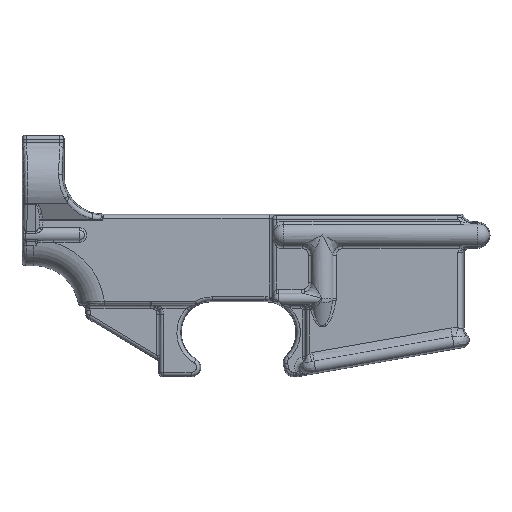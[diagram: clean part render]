
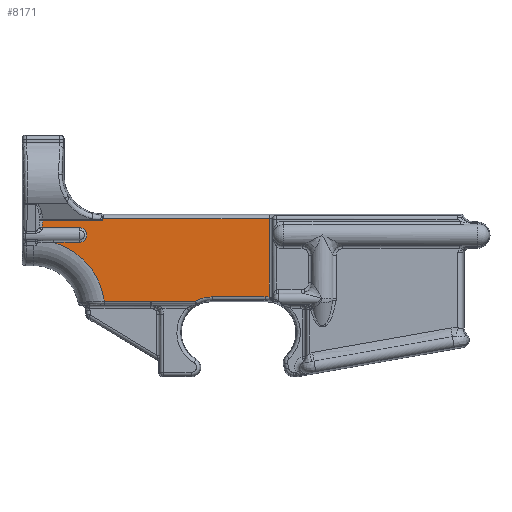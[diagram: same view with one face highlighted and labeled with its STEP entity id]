
A CAD part, top view. The second image highlights one B-rep face of the part: STEP entity #8171.
In plain terms, the highlighted planar face has unit normal (0, 0, 1).
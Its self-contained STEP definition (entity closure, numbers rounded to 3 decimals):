
#40=PLANE('',#8882);
#198=ELLIPSE('',#8883,12.851,3.);
#514=LINE('',#15489,#811);
#549=LINE('',#16087,#846);
#550=LINE('',#16109,#847);
#551=LINE('',#16113,#848);
#552=LINE('',#16117,#849);
#553=LINE('',#16121,#850);
#554=LINE('',#16125,#851);
#555=LINE('',#16128,#852);
#811=VECTOR('',#10123,70.197);
#846=VECTOR('',#10264,33.242);
#847=VECTOR('',#10269,25.509);
#848=VECTOR('',#10272,15.883);
#849=VECTOR('',#10275,10.95);
#850=VECTOR('',#10278,19.722);
#851=VECTOR('',#10281,18.699);
#852=VECTOR('',#10284,22.4);
#1241=FACE_OUTER_BOUND('',#1816,.T.);
#1816=EDGE_LOOP('',(#6032,#6033,#6034,#6035,#6036,#6037,#6038,#6039,#6040,
#6041,#6042,#6043,#6044,#6045,#6046,#6047));
#2377=B_SPLINE_CURVE_WITH_KNOTS('',3,(#16091,#16092,#16093,#16094),
 .UNSPECIFIED.,.F.,.F.,(4,4),(0.,0.008),.UNSPECIFIED.);
#2378=B_SPLINE_CURVE_WITH_KNOTS('',3,(#16096,#16097,#16098,#16099,#16100,
#16101,#16102,#16103,#16104,#16105,#16106,#16107),.UNSPECIFIED.,.F.,.F.,
(4,2,1,1,1,1,1,1,4),(-0.091,-0.091,-0.073,
-0.055,-0.036,-0.018,-0.009,
-0.005,0.),.UNSPECIFIED.);
#2648=CIRCLE('',#8635,15.154);
#2769=CIRCLE('',#8884,3.132);
#2770=CIRCLE('',#8885,30.1);
#2771=CIRCLE('',#8886,5.504);
#2772=CIRCLE('',#8887,15.154);
#3214=VERTEX_POINT('',#13120);
#3215=VERTEX_POINT('',#13125);
#3378=VERTEX_POINT('',#15473);
#3380=VERTEX_POINT('',#15485);
#3447=VERTEX_POINT('',#16090);
#3448=VERTEX_POINT('',#16095);
#3449=VERTEX_POINT('',#16108);
#3450=VERTEX_POINT('',#16110);
#3451=VERTEX_POINT('',#16112);
#3452=VERTEX_POINT('',#16114);
#3453=VERTEX_POINT('',#16116);
#3454=VERTEX_POINT('',#16118);
#3455=VERTEX_POINT('',#16120);
#3456=VERTEX_POINT('',#16122);
#3457=VERTEX_POINT('',#16124);
#3458=VERTEX_POINT('',#16126);
#3998=EDGE_CURVE('',#3214,#3215,#2648,.T.);
#4271=EDGE_CURVE('',#3378,#3380,#514,.T.);
#4370=EDGE_CURVE('',#3380,#3214,#549,.T.);
#4372=EDGE_CURVE('',#3447,#3378,#2377,.T.);
#4373=EDGE_CURVE('',#3448,#3447,#2378,.T.);
#4374=EDGE_CURVE('',#3448,#3449,#550,.T.);
#4375=EDGE_CURVE('',#3450,#3449,#198,.T.);
#4376=EDGE_CURVE('',#3451,#3450,#551,.T.);
#4377=EDGE_CURVE('',#3452,#3451,#2769,.T.);
#4378=EDGE_CURVE('',#3453,#3452,#552,.T.);
#4379=EDGE_CURVE('',#3453,#3454,#2770,.T.);
#4380=EDGE_CURVE('',#3455,#3454,#553,.T.);
#4381=EDGE_CURVE('',#3456,#3455,#2771,.T.);
#4382=EDGE_CURVE('',#3457,#3456,#554,.T.);
#4383=EDGE_CURVE('',#3458,#3457,#2772,.T.);
#4384=EDGE_CURVE('',#3215,#3458,#555,.T.);
#6032=ORIENTED_EDGE('',*,*,#4271,.F.);
#6033=ORIENTED_EDGE('',*,*,#4372,.F.);
#6034=ORIENTED_EDGE('',*,*,#4373,.F.);
#6035=ORIENTED_EDGE('',*,*,#4374,.T.);
#6036=ORIENTED_EDGE('',*,*,#4375,.F.);
#6037=ORIENTED_EDGE('',*,*,#4376,.F.);
#6038=ORIENTED_EDGE('',*,*,#4377,.F.);
#6039=ORIENTED_EDGE('',*,*,#4378,.F.);
#6040=ORIENTED_EDGE('',*,*,#4379,.T.);
#6041=ORIENTED_EDGE('',*,*,#4380,.F.);
#6042=ORIENTED_EDGE('',*,*,#4381,.F.);
#6043=ORIENTED_EDGE('',*,*,#4382,.F.);
#6044=ORIENTED_EDGE('',*,*,#4383,.F.);
#6045=ORIENTED_EDGE('',*,*,#4384,.F.);
#6046=ORIENTED_EDGE('',*,*,#3998,.F.);
#6047=ORIENTED_EDGE('',*,*,#4370,.F.);
#8171=ADVANCED_FACE('',(#1241),#40,.F.);
#8635=AXIS2_PLACEMENT_3D('',#13126,#9674,#9675);
#8882=AXIS2_PLACEMENT_3D('',#16089,#10267,#10268);
#8883=AXIS2_PLACEMENT_3D('',#16111,#10270,#10271);
#8884=AXIS2_PLACEMENT_3D('',#16115,#10273,#10274);
#8885=AXIS2_PLACEMENT_3D('',#16119,#10276,#10277);
#8886=AXIS2_PLACEMENT_3D('',#16123,#10279,#10280);
#8887=AXIS2_PLACEMENT_3D('',#16127,#10282,#10283);
#9674=DIRECTION('center_axis',(0.,0.,1.));
#9675=DIRECTION('ref_axis',(0.116,0.993,0.));
#10123=DIRECTION('',(1.,0.,0.));
#10264=DIRECTION('',(0.,-1.,0.));
#10267=DIRECTION('center_axis',(0.,0.,-1.));
#10268=DIRECTION('ref_axis',(-1.,0.,0.));
#10269=DIRECTION('',(-1.,0.,0.));
#10270=DIRECTION('center_axis',(0.,0.,1.));
#10271=DIRECTION('ref_axis',(0.,-1.,0.));
#10272=DIRECTION('',(-1.,0.,0.));
#10273=DIRECTION('center_axis',(0.,0.,1.));
#10274=DIRECTION('ref_axis',(1.,0.,0.));
#10275=DIRECTION('',(1.,0.,0.));
#10276=DIRECTION('center_axis',(0.,0.,-1.));
#10277=DIRECTION('ref_axis',(-1.,0.031,0.));
#10278=DIRECTION('',(-1.,0.,0.));
#10279=DIRECTION('center_axis',(0.,0.,1.));
#10280=DIRECTION('ref_axis',(0.021,1.,0.));
#10281=DIRECTION('',(-1.,0.,0.));
#10282=DIRECTION('center_axis',(0.,0.,1.));
#10283=DIRECTION('ref_axis',(-0.243,0.97,0.));
#10284=DIRECTION('',(-1.,0.,0.));
#13120=CARTESIAN_POINT('',(-88.159,-26.346,11.05));
#13125=CARTESIAN_POINT('',(-89.9,-26.246,11.05));
#13126=CARTESIAN_POINT('Origin',(-89.9,-41.4,11.05));
#15473=CARTESIAN_POINT('',(-158.356,6.896,11.05));
#15485=CARTESIAN_POINT('',(-88.159,6.896,11.05));
#15489=CARTESIAN_POINT('',(-109.222,6.896,11.05));
#16087=CARTESIAN_POINT('',(-88.159,8.708,11.05));
#16089=CARTESIAN_POINT('Origin',(-212.094,5.716,11.05));
#16090=CARTESIAN_POINT('',(-158.392,6.829,11.05));
#16091=CARTESIAN_POINT('Ctrl Pts',(-158.392,6.829,11.05));
#16092=CARTESIAN_POINT('Ctrl Pts',(-158.38,6.851,11.05));
#16093=CARTESIAN_POINT('Ctrl Pts',(-158.368,6.873,11.05));
#16094=CARTESIAN_POINT('Ctrl Pts',(-158.356,6.896,11.05));
#16095=CARTESIAN_POINT('',(-158.75,5.987,11.05));
#16096=CARTESIAN_POINT('Ctrl Pts',(-158.75,5.987,11.05));
#16097=CARTESIAN_POINT('Ctrl Pts',(-158.749,5.989,11.05));
#16098=CARTESIAN_POINT('Ctrl Pts',(-158.749,5.991,11.05));
#16099=CARTESIAN_POINT('Ctrl Pts',(-158.726,6.049,11.05));
#16100=CARTESIAN_POINT('Ctrl Pts',(-158.682,6.162,11.05));
#16101=CARTESIAN_POINT('Ctrl Pts',(-158.614,6.331,11.05));
#16102=CARTESIAN_POINT('Ctrl Pts',(-158.545,6.499,11.05));
#16103=CARTESIAN_POINT('Ctrl Pts',(-158.485,6.638,11.05));
#16104=CARTESIAN_POINT('Ctrl Pts',(-158.44,6.734,11.05));
#16105=CARTESIAN_POINT('Ctrl Pts',(-158.413,6.788,11.05));
#16106=CARTESIAN_POINT('Ctrl Pts',(-158.399,6.815,11.05));
#16107=CARTESIAN_POINT('Ctrl Pts',(-158.392,6.829,11.05));
#16108=CARTESIAN_POINT('',(-184.259,5.987,11.05));
#16109=CARTESIAN_POINT('',(-158.75,5.987,11.05));
#16110=CARTESIAN_POINT('',(-184.533,3.132,11.05));
#16111=CARTESIAN_POINT('Origin',(-187.15,9.416,11.05));
#16112=CARTESIAN_POINT('',(-168.65,3.132,11.05));
#16113=CARTESIAN_POINT('',(-182.108,3.132,11.05));
#16114=CARTESIAN_POINT('',(-168.65,-3.132,11.05));
#16115=CARTESIAN_POINT('Origin',(-168.65,0.,11.05));
#16116=CARTESIAN_POINT('',(-179.6,-3.132,11.05));
#16117=CARTESIAN_POINT('',(-182.108,-3.132,11.05));
#16118=CARTESIAN_POINT('',(-158.122,-28.046,11.05));
#16119=CARTESIAN_POINT('Origin',(-187.954,-32.05,11.05));
#16120=CARTESIAN_POINT('',(-138.4,-28.046,11.05));
#16121=CARTESIAN_POINT('',(-202.047,-28.046,11.05));
#16122=CARTESIAN_POINT('',(-138.172,-28.05,11.05));
#16123=CARTESIAN_POINT('Origin',(-138.4,-33.55,11.05));
#16124=CARTESIAN_POINT('',(-119.472,-28.05,11.05));
#16125=CARTESIAN_POINT('',(-100.,-28.05,11.05));
#16126=CARTESIAN_POINT('',(-112.3,-26.246,11.05));
#16127=CARTESIAN_POINT('Origin',(-112.3,-41.4,11.05));
#16128=CARTESIAN_POINT('',(-162.197,-26.246,11.05));
